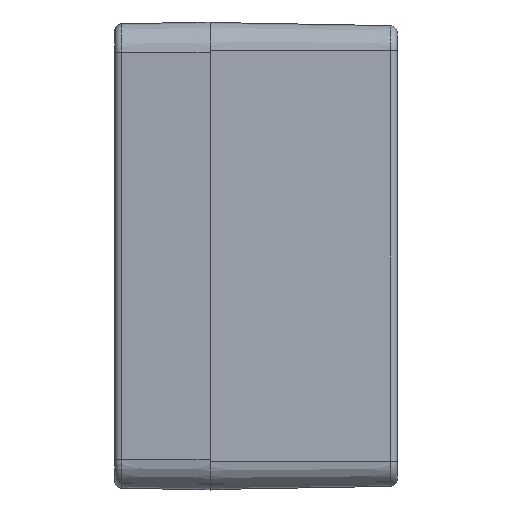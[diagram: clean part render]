
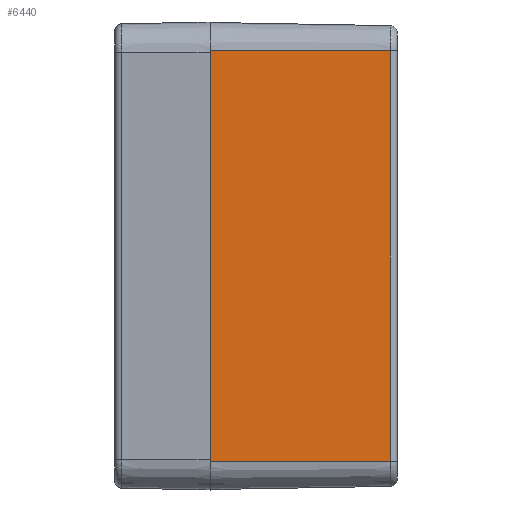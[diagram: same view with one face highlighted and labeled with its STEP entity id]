
A CAD part, left-side view. The second image highlights one B-rep face of the part: STEP entity #6440.
In plain terms, the highlighted planar face has unit normal (-1, -0.018, 0).
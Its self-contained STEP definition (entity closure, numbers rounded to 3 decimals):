
#777 = VECTOR ( 'NONE', #1150, 1000. ) ;
#806 = EDGE_CURVE ( 'NONE', #6973, #5716, #4739, .T. ) ;
#1035 = EDGE_CURVE ( 'NONE', #5716, #1943, #1309, .T. ) ;
#1137 = CARTESIAN_POINT ( 'NONE',  ( -79.8, 0., 43.8 ) ) ;
#1150 = DIRECTION ( 'NONE',  ( -0.017, 1., 0. ) ) ;
#1181 = FACE_OUTER_BOUND ( 'NONE', #7890, .T. ) ;
#1306 = AXIS2_PLACEMENT_3D ( 'NONE', #7854, #7315, #1826 ) ;
#1309 = LINE ( 'NONE', #2605, #777 ) ;
#1328 = DIRECTION ( 'NONE',  ( 0., 0., 1. ) ) ;
#1642 = VECTOR ( 'NONE', #7698, 1000. ) ;
#1645 = ORIENTED_EDGE ( 'NONE', *, *, #3568, .F. ) ;
#1826 = DIRECTION ( 'NONE',  ( 0.017, -1., 0. ) ) ;
#1943 = VERTEX_POINT ( 'NONE', #1137 ) ;
#2399 = CARTESIAN_POINT ( 'NONE',  ( -79.8, 0., 43.8 ) ) ;
#2605 = CARTESIAN_POINT ( 'NONE',  ( -79.8, 0., 43.8 ) ) ;
#2682 = CARTESIAN_POINT ( 'NONE',  ( -79.129, -38.426, 43.8 ) ) ;
#3062 = LINE ( 'NONE', #2399, #5374 ) ;
#3190 = ORIENTED_EDGE ( 'NONE', *, *, #7796, .F. ) ;
#3568 = EDGE_CURVE ( 'NONE', #6973, #4429, #6321, .T. ) ;
#3972 = VECTOR ( 'NONE', #1328, 1000. ) ;
#4422 = ORIENTED_EDGE ( 'NONE', *, *, #806, .T. ) ;
#4429 = VERTEX_POINT ( 'NONE', #7223 ) ;
#4739 = LINE ( 'NONE', #6626, #3972 ) ;
#5009 = CARTESIAN_POINT ( 'NONE',  ( -79.8, 0., -43.8 ) ) ;
#5163 = PLANE ( 'NONE',  #1306 ) ;
#5374 = VECTOR ( 'NONE', #8428, 1000. ) ;
#5716 = VERTEX_POINT ( 'NONE', #2682 ) ;
#6321 = LINE ( 'NONE', #5009, #1642 ) ;
#6440 = ADVANCED_FACE ( 'NONE', ( #1181 ), #5163, .T. ) ;
#6547 = CARTESIAN_POINT ( 'NONE',  ( -79.129, -38.426, -43.8 ) ) ;
#6626 = CARTESIAN_POINT ( 'NONE',  ( -79.129, -38.426, 43.8 ) ) ;
#6973 = VERTEX_POINT ( 'NONE', #6547 ) ;
#7223 = CARTESIAN_POINT ( 'NONE',  ( -79.8, 0., -43.8 ) ) ;
#7265 = ORIENTED_EDGE ( 'NONE', *, *, #1035, .T. ) ;
#7315 = DIRECTION ( 'NONE',  ( -1., -0.017, 0. ) ) ;
#7698 = DIRECTION ( 'NONE',  ( -0.017, 1., 0. ) ) ;
#7796 = EDGE_CURVE ( 'NONE', #4429, #1943, #3062, .T. ) ;
#7854 = CARTESIAN_POINT ( 'NONE',  ( -79.8, 0., 43.8 ) ) ;
#7890 = EDGE_LOOP ( 'NONE', ( #1645, #4422, #7265, #3190 ) ) ;
#8428 = DIRECTION ( 'NONE',  ( 0., 0., 1. ) ) ;
